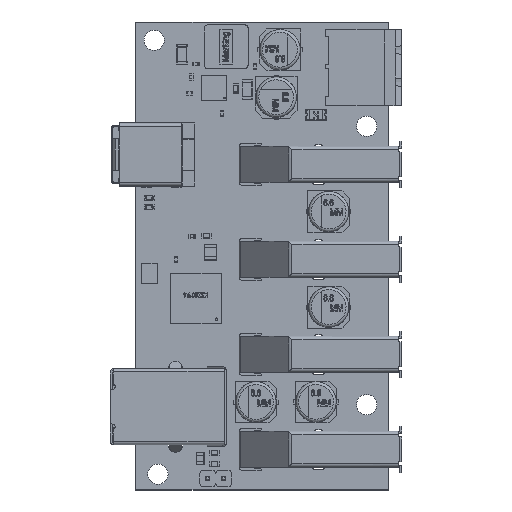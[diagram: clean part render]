
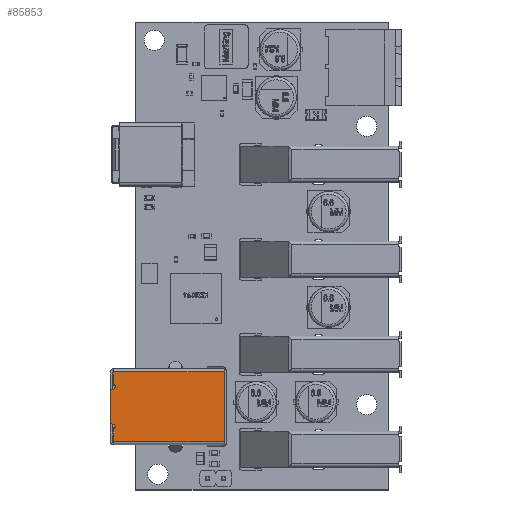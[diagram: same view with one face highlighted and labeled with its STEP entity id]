
A CAD part, top view. The second image highlights one B-rep face of the part: STEP entity #85853.
In plain terms, the highlighted planar face has unit normal (0, 0, 1) as drawn and (0, 0, -1) by its records, which use the part's own axes.
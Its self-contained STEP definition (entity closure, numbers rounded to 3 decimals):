
#7188=CIRCLE('',#92836,0.373);
#7189=CIRCLE('',#92837,0.373);
#7190=CIRCLE('',#92838,0.245);
#7191=CIRCLE('',#92839,0.245);
#7192=CIRCLE('',#92840,0.373);
#7193=CIRCLE('',#92841,0.373);
#11574=FACE_OUTER_BOUND('',#16164,.T.);
#16164=EDGE_LOOP('',(#73468,#73469,#73470,#73471,#73472,#73473,#73474,#73475,
#73476,#73477,#73478,#73479,#73480,#73481));
#24041=LINE('',#140105,#33644);
#24043=LINE('',#140110,#33646);
#24049=LINE('',#140123,#33652);
#24447=LINE('',#141303,#34050);
#24448=LINE('',#141309,#34051);
#24472=LINE('',#141367,#34075);
#24508=LINE('',#141486,#34111);
#24511=LINE('',#141505,#34114);
#33644=VECTOR('',#109911,1.);
#33646=VECTOR('',#109915,1.);
#33652=VECTOR('',#109923,1.);
#34050=VECTOR('',#110819,1.);
#34051=VECTOR('',#110824,1.);
#34075=VECTOR('',#110890,1.);
#34111=VECTOR('',#111032,1.);
#34114=VECTOR('',#111057,1.);
#41953=VERTEX_POINT('',#140102);
#41954=VERTEX_POINT('',#140104);
#41955=VERTEX_POINT('',#140108);
#41956=VERTEX_POINT('',#140109);
#41961=VERTEX_POINT('',#140120);
#41962=VERTEX_POINT('',#140122);
#42283=VERTEX_POINT('',#141298);
#42284=VERTEX_POINT('',#141301);
#42285=VERTEX_POINT('',#141305);
#42287=VERTEX_POINT('',#141308);
#42330=VERTEX_POINT('',#141484);
#42334=VERTEX_POINT('',#141500);
#42335=VERTEX_POINT('',#141503);
#42336=VERTEX_POINT('',#141507);
#52423=EDGE_CURVE('',#41953,#41954,#24041,.T.);
#52425=EDGE_CURVE('',#41955,#41956,#24043,.T.);
#52431=EDGE_CURVE('',#41962,#41961,#24049,.T.);
#52928=EDGE_CURVE('',#42284,#42283,#24447,.T.);
#52930=EDGE_CURVE('',#42287,#42285,#24448,.T.);
#52968=EDGE_CURVE('',#42285,#42283,#24472,.T.);
#53032=EDGE_CURVE('',#42330,#42284,#24508,.T.);
#53041=EDGE_CURVE('',#42334,#41961,#7188,.T.);
#53042=EDGE_CURVE('',#42334,#41955,#7189,.T.);
#53043=EDGE_CURVE('',#41956,#42335,#7190,.T.);
#53044=EDGE_CURVE('',#42287,#42335,#24511,.T.);
#53045=EDGE_CURVE('',#42330,#41954,#7191,.T.);
#53046=EDGE_CURVE('',#41953,#42336,#7192,.T.);
#53047=EDGE_CURVE('',#41962,#42336,#7193,.T.);
#73468=ORIENTED_EDGE('',*,*,#52431,.T.);
#73469=ORIENTED_EDGE('',*,*,#53041,.F.);
#73470=ORIENTED_EDGE('',*,*,#53042,.T.);
#73471=ORIENTED_EDGE('',*,*,#52425,.T.);
#73472=ORIENTED_EDGE('',*,*,#53043,.T.);
#73473=ORIENTED_EDGE('',*,*,#53044,.F.);
#73474=ORIENTED_EDGE('',*,*,#52930,.T.);
#73475=ORIENTED_EDGE('',*,*,#52968,.T.);
#73476=ORIENTED_EDGE('',*,*,#52928,.F.);
#73477=ORIENTED_EDGE('',*,*,#53032,.F.);
#73478=ORIENTED_EDGE('',*,*,#53045,.T.);
#73479=ORIENTED_EDGE('',*,*,#52423,.F.);
#73480=ORIENTED_EDGE('',*,*,#53046,.T.);
#73481=ORIENTED_EDGE('',*,*,#53047,.F.);
#81830=PLANE('',#92835);
#85853=ADVANCED_FACE('',(#11574),#81830,.F.);
#92835=AXIS2_PLACEMENT_3D('',#141499,#111049,#111050);
#92836=AXIS2_PLACEMENT_3D('',#141501,#111051,#111052);
#92837=AXIS2_PLACEMENT_3D('',#141502,#111053,#111054);
#92838=AXIS2_PLACEMENT_3D('',#141504,#111055,#111056);
#92839=AXIS2_PLACEMENT_3D('',#141506,#111058,#111059);
#92840=AXIS2_PLACEMENT_3D('',#141508,#111060,#111061);
#92841=AXIS2_PLACEMENT_3D('',#141509,#111062,#111063);
#109911=DIRECTION('',(1.,0.,0.));
#109915=DIRECTION('',(-1.,0.,0.));
#109923=DIRECTION('',(-1.,0.,0.));
#110819=DIRECTION('',(0.,1.,0.));
#110824=DIRECTION('',(0.,1.,0.));
#110890=DIRECTION('',(1.,0.,0.));
#111032=DIRECTION('',(1.,0.,0.));
#111049=DIRECTION('center_axis',(0.,0.,1.));
#111050=DIRECTION('ref_axis',(1.,0.,0.));
#111051=DIRECTION('center_axis',(0.,0.,1.));
#111052=DIRECTION('ref_axis',(1.,0.,0.));
#111053=DIRECTION('center_axis',(0.,0.,1.));
#111054=DIRECTION('ref_axis',(1.,0.,0.));
#111055=DIRECTION('center_axis',(0.,0.,1.));
#111056=DIRECTION('ref_axis',(1.,0.,0.));
#111057=DIRECTION('',(1.,0.,0.));
#111058=DIRECTION('center_axis',(0.,0.,1.));
#111059=DIRECTION('ref_axis',(1.,0.,0.));
#111060=DIRECTION('center_axis',(0.,0.,1.));
#111061=DIRECTION('ref_axis',(1.,0.,0.));
#111062=DIRECTION('center_axis',(0.,0.,1.));
#111063=DIRECTION('ref_axis',(1.,0.,0.));
#140102=CARTESIAN_POINT('',(3.123,-9.555,-6.105));
#140104=CARTESIAN_POINT('',(3.25,-9.555,-6.105));
#140105=CARTESIAN_POINT('',(2.75,-9.555,-6.105));
#140108=CARTESIAN_POINT('',(-3.123,-9.555,-6.105));
#140109=CARTESIAN_POINT('',(-3.25,-9.555,-6.105));
#140110=CARTESIAN_POINT('',(-2.75,-9.555,-6.105));
#140120=CARTESIAN_POINT('',(-2.378,-10.3,-6.105));
#140122=CARTESIAN_POINT('',(2.378,-10.3,-6.105));
#140123=CARTESIAN_POINT('',(2.75,-10.3,-6.105));
#141298=CARTESIAN_POINT('',(5.5,7.7,-6.105));
#141301=CARTESIAN_POINT('',(5.5,-9.8,-6.105));
#141303=CARTESIAN_POINT('',(5.5,-9.8,-6.105));
#141305=CARTESIAN_POINT('',(-5.5,7.7,-6.105));
#141308=CARTESIAN_POINT('',(-5.5,-9.8,-6.105));
#141309=CARTESIAN_POINT('',(-5.5,-9.8,-6.105));
#141367=CARTESIAN_POINT('',(-6.,7.7,-6.105));
#141484=CARTESIAN_POINT('',(3.495,-9.8,-6.105));
#141486=CARTESIAN_POINT('',(-6.,-9.8,-6.105));
#141499=CARTESIAN_POINT('Origin',(-6.,-9.8,-6.105));
#141500=CARTESIAN_POINT('',(-2.75,-9.928,-6.105));
#141501=CARTESIAN_POINT('Origin',(-2.378,-9.928,-6.105));
#141502=CARTESIAN_POINT('Origin',(-3.123,-9.928,-6.105));
#141503=CARTESIAN_POINT('',(-3.495,-9.8,-6.105));
#141504=CARTESIAN_POINT('Origin',(-3.25,-9.8,-6.105));
#141505=CARTESIAN_POINT('',(-6.,-9.8,-6.105));
#141506=CARTESIAN_POINT('Origin',(3.25,-9.8,-6.105));
#141507=CARTESIAN_POINT('',(2.75,-9.928,-6.105));
#141508=CARTESIAN_POINT('Origin',(3.123,-9.928,-6.105));
#141509=CARTESIAN_POINT('Origin',(2.378,-9.928,-6.105));
